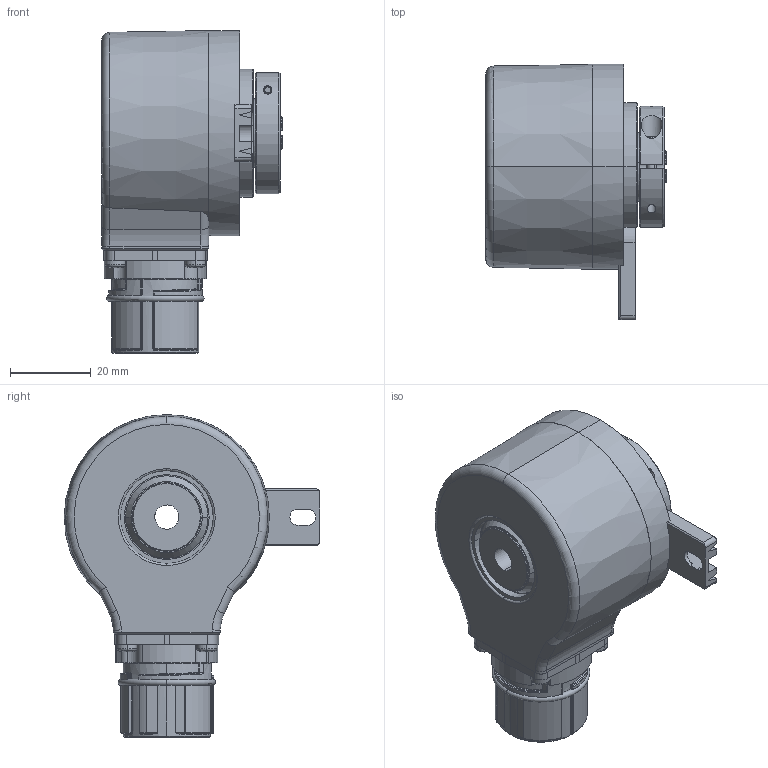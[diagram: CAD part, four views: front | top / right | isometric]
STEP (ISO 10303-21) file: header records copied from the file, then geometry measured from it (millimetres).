
FILE_DESCRIPTION (( 'STEP AP203' ), '1' );
FILE_NAME ('8.5020.21X4.XXXX.STEP', '2017-04-05T12:27:11', ( '' ), ( '' ), 'SwSTEP 2.0', 'SolidWorks 2017', '' );
FILE_SCHEMA (( 'CONFIG_CONTROL_DESIGN' ));
Products named in the file (1): 8.5020.21X4.XXXX
Bounding box: 44.7 x 63.3 x 80 mm (x, y, z)
Volume: 51853.3 mm3; surface area: 42868.3 mm2
Topology: 31 solids, 32 shells, 1487 faces, 3588 edges, 2213 vertices
Faces by surface type: cylinder 540, plane 448, cone 170, bspline 121, torus 112, sphere 96
Entity records: 49776 total; most frequent: CARTESIAN_POINT 15655, DIRECTION 7317, ORIENTED_EDGE 6884, EDGE_CURVE 3442, AXIS2_PLACEMENT_3D 2933, VERTEX_POINT 2151, EDGE_LOOP 1723, CIRCLE 1566
